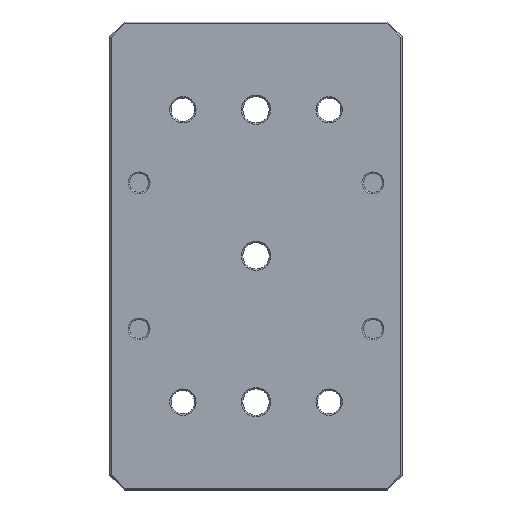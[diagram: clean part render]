
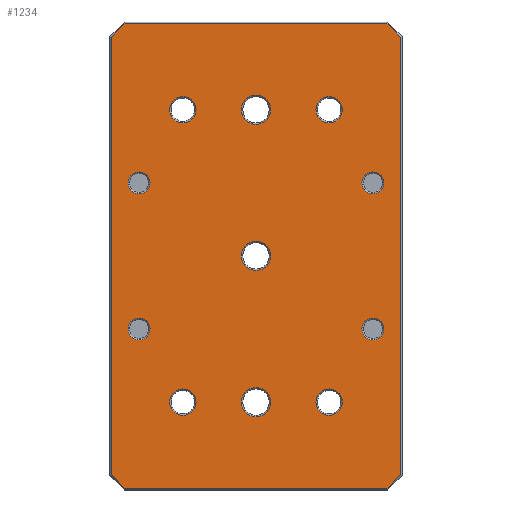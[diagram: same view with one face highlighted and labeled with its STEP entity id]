
A CAD part, top view. The second image highlights one B-rep face of the part: STEP entity #1234.
In plain terms, the highlighted planar face has unit normal (0, 0, 1).
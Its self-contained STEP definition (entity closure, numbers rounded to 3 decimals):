
#81=FACE_BOUND('',#215,.T.);
#82=FACE_BOUND('',#216,.T.);
#83=FACE_BOUND('',#217,.T.);
#84=FACE_BOUND('',#218,.T.);
#85=FACE_BOUND('',#219,.T.);
#86=FACE_BOUND('',#220,.T.);
#87=FACE_BOUND('',#221,.T.);
#88=FACE_BOUND('',#222,.T.);
#89=FACE_BOUND('',#223,.T.);
#90=FACE_BOUND('',#224,.T.);
#91=FACE_BOUND('',#225,.T.);
#101=PLANE('',#1327);
#137=FACE_OUTER_BOUND('',#214,.T.);
#214=EDGE_LOOP('',(#862,#863,#864,#865,#866,#867,#868,#869));
#215=EDGE_LOOP('',(#870));
#216=EDGE_LOOP('',(#871));
#217=EDGE_LOOP('',(#872));
#218=EDGE_LOOP('',(#873));
#219=EDGE_LOOP('',(#874));
#220=EDGE_LOOP('',(#875));
#221=EDGE_LOOP('',(#876));
#222=EDGE_LOOP('',(#877));
#223=EDGE_LOOP('',(#878));
#224=EDGE_LOOP('',(#879));
#225=EDGE_LOOP('',(#880));
#311=LINE('',#1751,#417);
#312=LINE('',#1753,#418);
#313=LINE('',#1755,#419);
#314=LINE('',#1757,#420);
#315=LINE('',#1759,#421);
#316=LINE('',#1761,#422);
#317=LINE('',#1763,#423);
#318=LINE('',#1764,#424);
#417=VECTOR('',#1438,10.);
#418=VECTOR('',#1439,10.);
#419=VECTOR('',#1440,10.);
#420=VECTOR('',#1441,10.);
#421=VECTOR('',#1442,10.);
#422=VECTOR('',#1443,10.);
#423=VECTOR('',#1444,10.);
#424=VECTOR('',#1445,10.);
#523=CIRCLE('',#1326,5.);
#524=CIRCLE('',#1328,5.);
#525=CIRCLE('',#1329,3.75);
#526=CIRCLE('',#1330,4.5);
#527=CIRCLE('',#1331,3.75);
#528=CIRCLE('',#1332,3.75);
#529=CIRCLE('',#1333,5.);
#530=CIRCLE('',#1334,4.5);
#531=CIRCLE('',#1335,4.5);
#532=CIRCLE('',#1336,3.75);
#533=CIRCLE('',#1337,4.5);
#564=VERTEX_POINT('',#1745);
#565=VERTEX_POINT('',#1749);
#566=VERTEX_POINT('',#1750);
#567=VERTEX_POINT('',#1752);
#568=VERTEX_POINT('',#1754);
#569=VERTEX_POINT('',#1756);
#570=VERTEX_POINT('',#1758);
#571=VERTEX_POINT('',#1760);
#572=VERTEX_POINT('',#1762);
#573=VERTEX_POINT('',#1765);
#574=VERTEX_POINT('',#1767);
#575=VERTEX_POINT('',#1769);
#576=VERTEX_POINT('',#1771);
#577=VERTEX_POINT('',#1773);
#578=VERTEX_POINT('',#1775);
#579=VERTEX_POINT('',#1777);
#580=VERTEX_POINT('',#1779);
#581=VERTEX_POINT('',#1781);
#582=VERTEX_POINT('',#1783);
#678=EDGE_CURVE('',#564,#564,#523,.T.);
#679=EDGE_CURVE('',#565,#566,#311,.T.);
#680=EDGE_CURVE('',#567,#565,#312,.T.);
#681=EDGE_CURVE('',#568,#567,#313,.T.);
#682=EDGE_CURVE('',#569,#568,#314,.T.);
#683=EDGE_CURVE('',#570,#569,#315,.T.);
#684=EDGE_CURVE('',#571,#570,#316,.T.);
#685=EDGE_CURVE('',#572,#571,#317,.T.);
#686=EDGE_CURVE('',#566,#572,#318,.T.);
#687=EDGE_CURVE('',#573,#573,#524,.T.);
#688=EDGE_CURVE('',#574,#574,#525,.T.);
#689=EDGE_CURVE('',#575,#575,#526,.T.);
#690=EDGE_CURVE('',#576,#576,#527,.T.);
#691=EDGE_CURVE('',#577,#577,#528,.T.);
#692=EDGE_CURVE('',#578,#578,#529,.T.);
#693=EDGE_CURVE('',#579,#579,#530,.T.);
#694=EDGE_CURVE('',#580,#580,#531,.T.);
#695=EDGE_CURVE('',#581,#581,#532,.T.);
#696=EDGE_CURVE('',#582,#582,#533,.T.);
#862=ORIENTED_EDGE('',*,*,#679,.F.);
#863=ORIENTED_EDGE('',*,*,#680,.F.);
#864=ORIENTED_EDGE('',*,*,#681,.F.);
#865=ORIENTED_EDGE('',*,*,#682,.F.);
#866=ORIENTED_EDGE('',*,*,#683,.F.);
#867=ORIENTED_EDGE('',*,*,#684,.F.);
#868=ORIENTED_EDGE('',*,*,#685,.F.);
#869=ORIENTED_EDGE('',*,*,#686,.F.);
#870=ORIENTED_EDGE('',*,*,#687,.F.);
#871=ORIENTED_EDGE('',*,*,#688,.F.);
#872=ORIENTED_EDGE('',*,*,#689,.F.);
#873=ORIENTED_EDGE('',*,*,#690,.F.);
#874=ORIENTED_EDGE('',*,*,#691,.F.);
#875=ORIENTED_EDGE('',*,*,#692,.F.);
#876=ORIENTED_EDGE('',*,*,#693,.F.);
#877=ORIENTED_EDGE('',*,*,#694,.F.);
#878=ORIENTED_EDGE('',*,*,#695,.F.);
#879=ORIENTED_EDGE('',*,*,#696,.F.);
#880=ORIENTED_EDGE('',*,*,#678,.F.);
#1234=ADVANCED_FACE('',(#137,#81,#82,#83,#84,#85,#86,#87,#88,#89,#90,#91),
#101,.T.);
#1326=AXIS2_PLACEMENT_3D('',#1747,#1434,#1435);
#1327=AXIS2_PLACEMENT_3D('',#1748,#1436,#1437);
#1328=AXIS2_PLACEMENT_3D('',#1766,#1446,#1447);
#1329=AXIS2_PLACEMENT_3D('',#1768,#1448,#1449);
#1330=AXIS2_PLACEMENT_3D('',#1770,#1450,#1451);
#1331=AXIS2_PLACEMENT_3D('',#1772,#1452,#1453);
#1332=AXIS2_PLACEMENT_3D('',#1774,#1454,#1455);
#1333=AXIS2_PLACEMENT_3D('',#1776,#1456,#1457);
#1334=AXIS2_PLACEMENT_3D('',#1778,#1458,#1459);
#1335=AXIS2_PLACEMENT_3D('',#1780,#1460,#1461);
#1336=AXIS2_PLACEMENT_3D('',#1782,#1462,#1463);
#1337=AXIS2_PLACEMENT_3D('',#1784,#1464,#1465);
#1434=DIRECTION('center_axis',(0.,0.,
1.));
#1435=DIRECTION('ref_axis',(-1.,0.,0.));
#1436=DIRECTION('center_axis',(0.,0.,
1.));
#1437=DIRECTION('ref_axis',(-1.,0.,0.));
#1438=DIRECTION('',(0.707,0.707,0.));
#1439=DIRECTION('',(0.,1.,0.));
#1440=DIRECTION('',(-0.707,0.707,0.));
#1441=DIRECTION('',(-1.,0.,0.));
#1442=DIRECTION('',(-0.707,-0.707,0.));
#1443=DIRECTION('',(0.,-1.,0.));
#1444=DIRECTION('',(0.707,-0.707,0.));
#1445=DIRECTION('',(1.,0.,0.));
#1446=DIRECTION('center_axis',(0.,0.,
1.));
#1447=DIRECTION('ref_axis',(-1.,0.,0.));
#1448=DIRECTION('center_axis',(0.,0.,
1.));
#1449=DIRECTION('ref_axis',(-1.,0.,0.));
#1450=DIRECTION('center_axis',(0.,0.,
1.));
#1451=DIRECTION('ref_axis',(-1.,0.,0.));
#1452=DIRECTION('center_axis',(0.,0.,
1.));
#1453=DIRECTION('ref_axis',(-1.,0.,0.));
#1454=DIRECTION('center_axis',(0.,0.,
1.));
#1455=DIRECTION('ref_axis',(-1.,0.,0.));
#1456=DIRECTION('center_axis',(0.,0.,
1.));
#1457=DIRECTION('ref_axis',(1.,0.,0.));
#1458=DIRECTION('center_axis',(0.,0.,
1.));
#1459=DIRECTION('ref_axis',(-1.,0.,0.));
#1460=DIRECTION('center_axis',(0.,0.,
1.));
#1461=DIRECTION('ref_axis',(-1.,0.,0.));
#1462=DIRECTION('center_axis',(0.,0.,
1.));
#1463=DIRECTION('ref_axis',(-1.,0.,0.));
#1464=DIRECTION('center_axis',(0.,0.,
1.));
#1465=DIRECTION('ref_axis',(-1.,0.,0.));
#1745=CARTESIAN_POINT('',(2.,-20.,135.4));
#1747=CARTESIAN_POINT('Origin',(-3.,-20.,135.4));
#1748=CARTESIAN_POINT('Origin',(-3.,-20.,135.4));
#1749=CARTESIAN_POINT('',(-52.5,104.793,135.4));
#1750=CARTESIAN_POINT('',(-47.793,109.5,135.4));
#1751=CARTESIAN_POINT('',(-70.146,87.146,135.4));
#1752=CARTESIAN_POINT('',(-52.5,-44.793,135.4));
#1753=CARTESIAN_POINT('',(-52.5,45.,135.4));
#1754=CARTESIAN_POINT('',(-47.793,-49.5,135.4));
#1755=CARTESIAN_POINT('',(-45.146,-52.146,135.4));
#1756=CARTESIAN_POINT('',(41.793,-49.5,135.4));
#1757=CARTESIAN_POINT('',(-28.,-49.5,135.4));
#1758=CARTESIAN_POINT('',(46.5,-44.793,135.4));
#1759=CARTESIAN_POINT('',(39.146,-52.146,135.4));
#1760=CARTESIAN_POINT('',(46.5,104.793,135.4));
#1761=CARTESIAN_POINT('',(46.5,-35.,135.4));
#1762=CARTESIAN_POINT('',(41.793,109.5,135.4));
#1763=CARTESIAN_POINT('',(64.146,87.146,135.4));
#1764=CARTESIAN_POINT('',(22.,109.5,135.4));
#1765=CARTESIAN_POINT('',(2.,30.,135.4));
#1766=CARTESIAN_POINT('Origin',(-3.,30.,135.4));
#1767=CARTESIAN_POINT('',(40.75,5.,135.4));
#1768=CARTESIAN_POINT('Origin',(37.,5.,135.4));
#1769=CARTESIAN_POINT('',(-23.5,80.,135.4));
#1770=CARTESIAN_POINT('Origin',(-28.,80.,135.4));
#1771=CARTESIAN_POINT('',(40.75,55.,135.4));
#1772=CARTESIAN_POINT('Origin',(37.,55.,135.4));
#1773=CARTESIAN_POINT('',(-39.25,5.,135.4));
#1774=CARTESIAN_POINT('Origin',(-43.,5.,135.4));
#1775=CARTESIAN_POINT('',(-8.,80.,135.4));
#1776=CARTESIAN_POINT('Origin',(-3.,80.,135.4));
#1777=CARTESIAN_POINT('',(26.5,80.,135.4));
#1778=CARTESIAN_POINT('Origin',(22.,80.,135.4));
#1779=CARTESIAN_POINT('',(-23.5,-20.,135.4));
#1780=CARTESIAN_POINT('Origin',(-28.,-20.,135.4));
#1781=CARTESIAN_POINT('',(-39.25,55.,135.4));
#1782=CARTESIAN_POINT('Origin',(-43.,55.,135.4));
#1783=CARTESIAN_POINT('',(26.5,-20.,135.4));
#1784=CARTESIAN_POINT('Origin',(22.,-20.,135.4));
